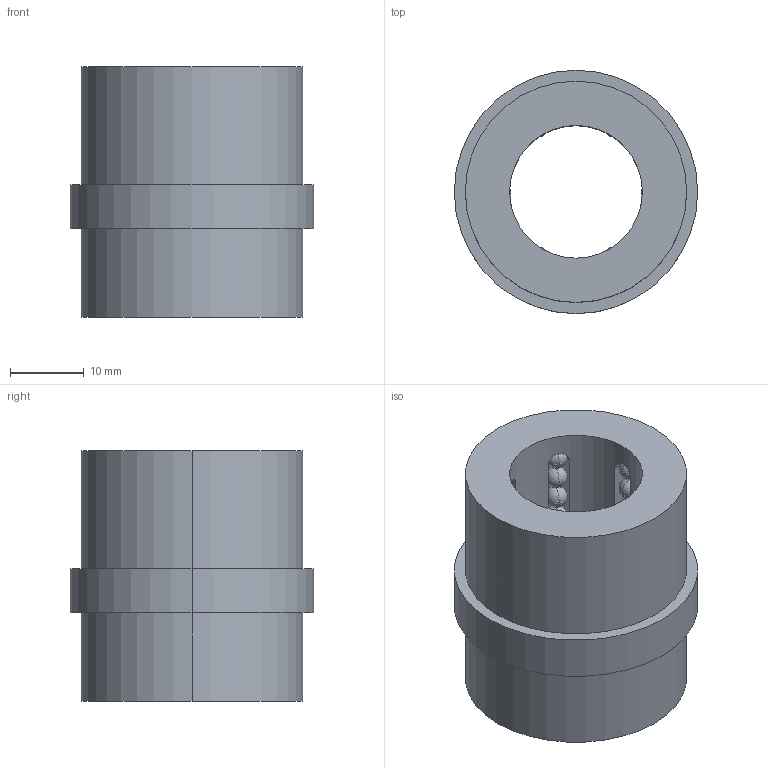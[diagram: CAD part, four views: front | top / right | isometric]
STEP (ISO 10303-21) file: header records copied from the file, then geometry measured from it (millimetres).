
FILE_DESCRIPTION((''),'2;1');
FILE_NAME('B844181222','2018-01-24T',('MANU'),(''),'PRO/ENGINEER BY PARAMETRIC TECHNOLOGY CORPORATION, 2012130','PRO/ENGINEER BY PARAMETRIC TECHNOLOGY CORPORATION, 2012130','');
FILE_SCHEMA(('CONFIG_CONTROL_DESIGN'));
Length unit declared in the file: millimetre
Products named in the file (1): B844181222
Bounding box: 33 x 33 x 34 mm (x, y, z)
Volume: 15559.7 mm3; surface area: 9002.9 mm2
Topology: 55 solids, 55 shells, 150 faces, 426 edges, 176 vertices
Faces by surface type: sphere 108, plane 22, cylinder 20
Entity records: 3498 total; most frequent: CARTESIAN_POINT 738, DIRECTION 630, ORIENTED_EDGE 420, AXIS2_PLACEMENT_3D 286, EDGE_CURVE 210, VERTEX_POINT 176, EDGE_LOOP 158, FACE_OUTER_BOUND 150
